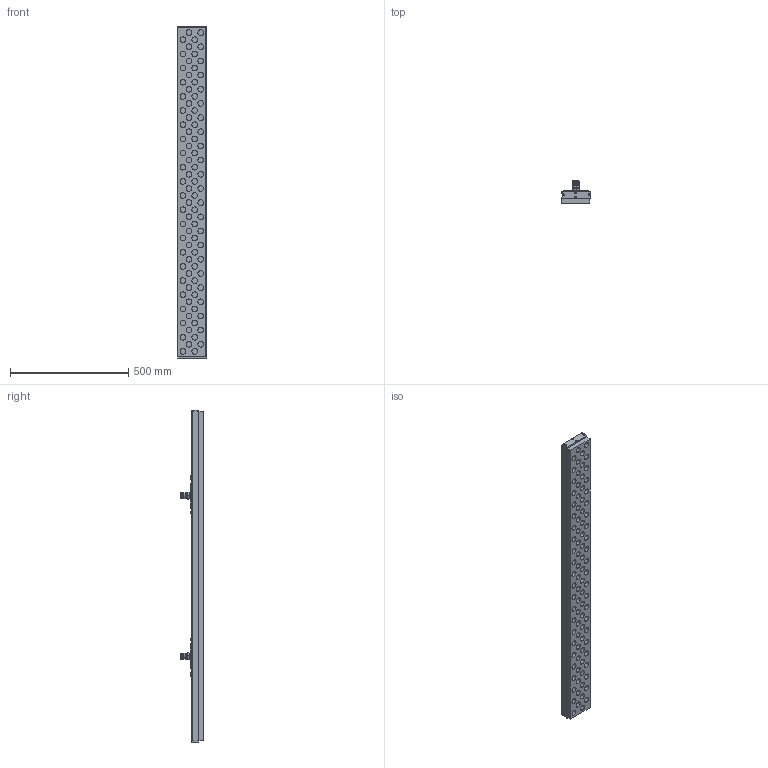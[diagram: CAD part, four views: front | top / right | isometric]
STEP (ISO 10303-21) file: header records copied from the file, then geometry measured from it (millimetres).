
FILE_DESCRIPTION (( 'STEP AP214' ), '1' );
FILE_NAME ('311 400 018.STEP', '2018-01-10T11:50:40', ( '' ), ( '' ), 'SwSTEP 2.0', 'SolidWorks 2017', '' );
FILE_SCHEMA (( 'AUTOMOTIVE_DESIGN' ));
Length unit declared in the file: millimetre
Products named in the file (1): 311 400 018
Bounding box: 121.5 x 98.5 x 1406 mm (x, y, z)
Volume: 7701006.2 mm3; surface area: 678369.7 mm2
Topology: 1 solids, 1 shells, 1084 faces, 2462 edges, 1540 vertices
Faces by surface type: cylinder 492, plane 332, torus 172, cone 68, bspline 12, sphere 8
Entity records: 43488 total; most frequent: CARTESIAN_POINT 6235, DIRECTION 5900, ORIENTED_EDGE 4884, AXIS2_PLACEMENT_3D 2473, EDGE_CURVE 2442, VERTEX_POINT 1528, CIRCLE 1400, EDGE_LOOP 1256
